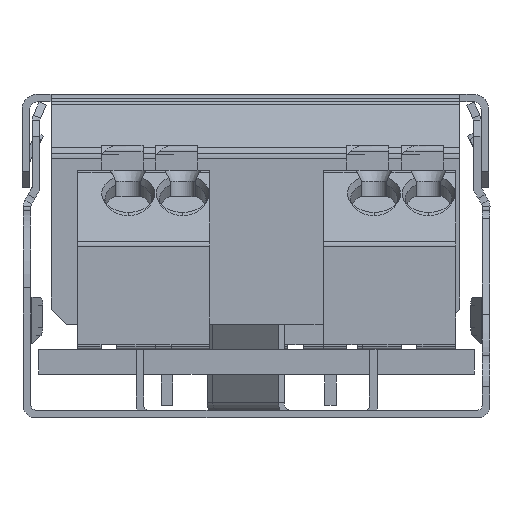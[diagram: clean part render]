
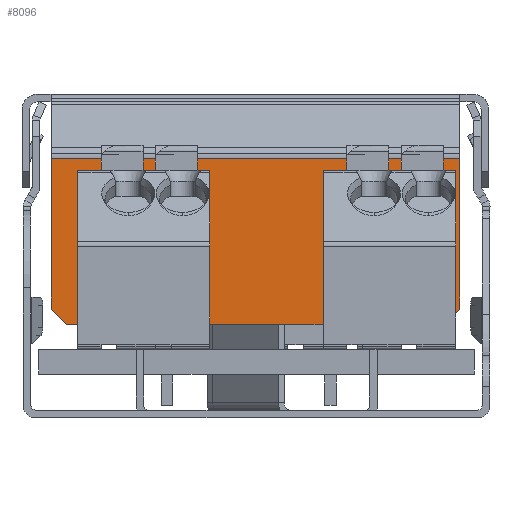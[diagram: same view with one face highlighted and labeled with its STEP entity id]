
A CAD part, front view. The second image highlights one B-rep face of the part: STEP entity #8096.
In plain terms, the highlighted planar face has unit normal (0, -1, 0).
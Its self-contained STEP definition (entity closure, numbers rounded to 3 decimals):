
#49 = CARTESIAN_POINT ( 'NONE',  ( 117.61, 15.606, 221.978 ) ) ;
#1023 = PLANE ( 'NONE',  #22177 ) ;
#1212 = VECTOR ( 'NONE', #16281, 1000. ) ;
#1661 = CARTESIAN_POINT ( 'NONE',  ( 92.34, 15.606, 235.981 ) ) ;
#2165 = DIRECTION ( 'NONE',  ( 0.707, 0., 0.707 ) ) ;
#3134 = CARTESIAN_POINT ( 'NONE',  ( 92.34, 15.606, 222.978 ) ) ;
#3492 = EDGE_CURVE ( 'NONE', #14240, #9530, #25305, .T. ) ;
#3506 = CARTESIAN_POINT ( 'NONE',  ( 119.136, 15.606, 221.978 ) ) ;
#3765 = CARTESIAN_POINT ( 'NONE',  ( 119.136, 15.606, 232.628 ) ) ;
#4178 = CARTESIAN_POINT ( 'NONE',  ( 93.34, 15.606, 221.978 ) ) ;
#5210 = DIRECTION ( 'NONE',  ( 0., 0., -1. ) ) ;
#7231 = CARTESIAN_POINT ( 'NONE',  ( 119.136, 15.606, 232.932 ) ) ;
#8096 = ADVANCED_FACE ( 'NONE', ( #11443 ), #1023, .T. ) ;
#9530 = VERTEX_POINT ( 'NONE', #24518 ) ;
#9795 = DIRECTION ( 'NONE',  ( 1., 0., 0. ) ) ;
#10945 = VERTEX_POINT ( 'NONE', #4178 ) ;
#11233 = DIRECTION ( 'NONE',  ( 0., 0., -1. ) ) ;
#11362 = LINE ( 'NONE', #3134, #16909 ) ;
#11443 = FACE_OUTER_BOUND ( 'NONE', #19029, .T. ) ;
#11842 = CARTESIAN_POINT ( 'NONE',  ( 92.34, 15.606, 222.978 ) ) ;
#12131 = DIRECTION ( 'NONE',  ( -1., 0., 0. ) ) ;
#12203 = VECTOR ( 'NONE', #2165, 1000. ) ;
#12934 = ORIENTED_EDGE ( 'NONE', *, *, #20360, .T. ) ;
#13518 = DIRECTION ( 'NONE',  ( 0.707, 0., -0.707 ) ) ;
#14205 = VECTOR ( 'NONE', #11233, 1000. ) ;
#14240 = VERTEX_POINT ( 'NONE', #14888 ) ;
#14888 = CARTESIAN_POINT ( 'NONE',  ( 118.61, 15.606, 232.628 ) ) ;
#15074 = EDGE_CURVE ( 'NONE', #21434, #16142, #22710, .T. ) ;
#15602 = EDGE_CURVE ( 'NONE', #14240, #21434, #26304, .T. ) ;
#16092 = VECTOR ( 'NONE', #9795, 1000. ) ;
#16142 = VERTEX_POINT ( 'NONE', #11842 ) ;
#16281 = DIRECTION ( 'NONE',  ( 0., 0., -1. ) ) ;
#16909 = VECTOR ( 'NONE', #13518, 1000. ) ;
#17724 = DIRECTION ( 'NONE',  ( 0., -1., 0. ) ) ;
#18180 = ORIENTED_EDGE ( 'NONE', *, *, #3492, .F. ) ;
#18802 = ORIENTED_EDGE ( 'NONE', *, *, #26356, .T. ) ;
#19029 = EDGE_LOOP ( 'NONE', ( #21610, #24167, #12934, #25111, #18802, #18180 ) ) ;
#20360 = EDGE_CURVE ( 'NONE', #16142, #10945, #11362, .T. ) ;
#21434 = VERTEX_POINT ( 'NONE', #25949 ) ;
#21610 = ORIENTED_EDGE ( 'NONE', *, *, #15602, .T. ) ;
#22177 = AXIS2_PLACEMENT_3D ( 'NONE', #7231, #17724, #5210 ) ;
#22271 = LINE ( 'NONE', #3506, #16092 ) ;
#22455 = CARTESIAN_POINT ( 'NONE',  ( 117.61, 15.606, 221.978 ) ) ;
#22710 = LINE ( 'NONE', #1661, #1212 ) ;
#23296 = LINE ( 'NONE', #49, #12203 ) ;
#24167 = ORIENTED_EDGE ( 'NONE', *, *, #15074, .T. ) ;
#24518 = CARTESIAN_POINT ( 'NONE',  ( 118.61, 15.606, 222.978 ) ) ;
#25111 = ORIENTED_EDGE ( 'NONE', *, *, #27023, .T. ) ;
#25305 = LINE ( 'NONE', #25810, #14205 ) ;
#25658 = VECTOR ( 'NONE', #12131, 1000. ) ;
#25810 = CARTESIAN_POINT ( 'NONE',  ( 118.61, 15.606, 235.981 ) ) ;
#25949 = CARTESIAN_POINT ( 'NONE',  ( 92.34, 15.606, 232.628 ) ) ;
#26304 = LINE ( 'NONE', #3765, #25658 ) ;
#26356 = EDGE_CURVE ( 'NONE', #26719, #9530, #23296, .T. ) ;
#26719 = VERTEX_POINT ( 'NONE', #22455 ) ;
#27023 = EDGE_CURVE ( 'NONE', #10945, #26719, #22271, .T. ) ;
